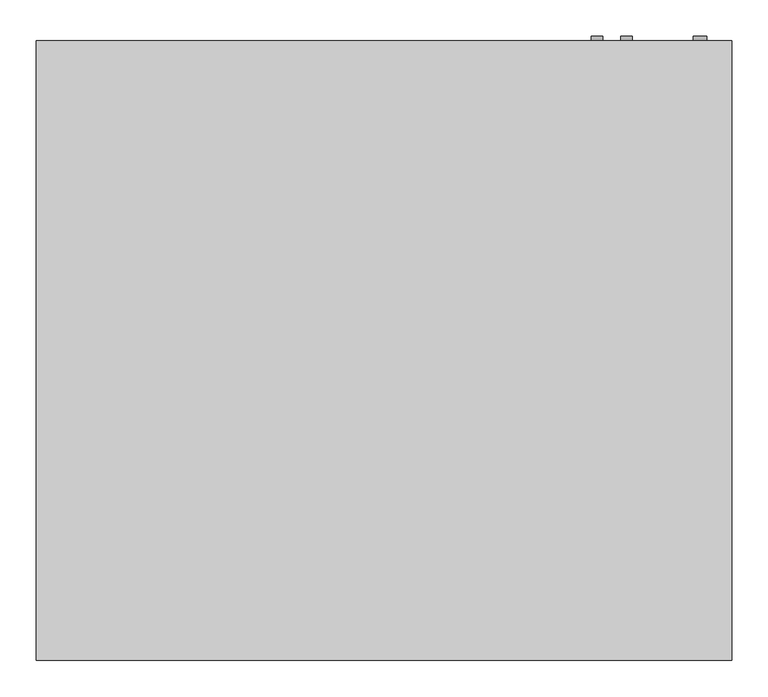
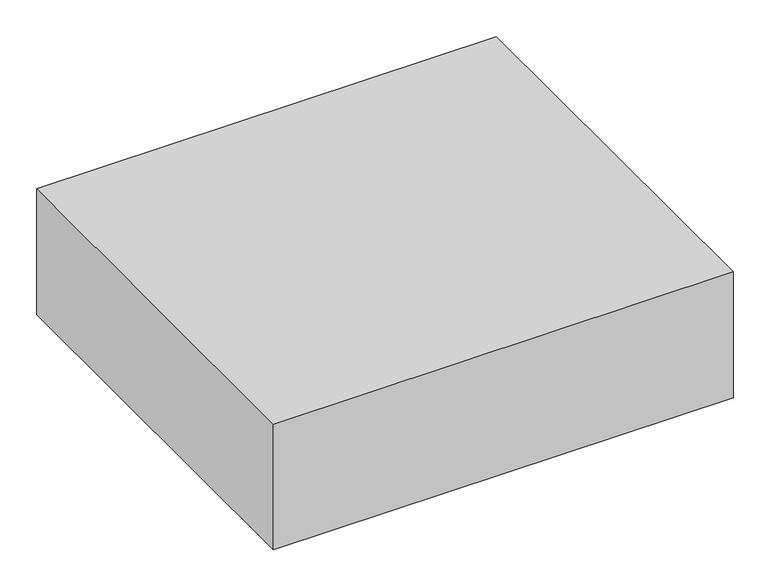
"""IFC4 building model written with IfcOpenShell, lengths in millimetres: proxy geometry, Exposed_Horizontal_Fan_Coil_Unit_-_42CGB_-_CARRIER_-_2-Pipe_Cool-EHeat_BS-BR_RH_2022 : Size 02 - 277v/60Hz/1Ph - 4 Row 2.0kW."""

from ifc_helpers import new_model, si_unit, point, frame, frame_2d, origin, place, context, project, spatial, polyline, circle_curve, trimmed, segment, composite_curve, outline, extrude, source, transform, mapped, element, save


def mechanical_equipment_f0572493(model_context):
    return source(origin(), model_context, "Body", "SweptSolid", [
        extrude(outline(polyline([(369.8875, -439.7375), (369.8875, -585.7875), (-65.0875, -585.7875), (-65.0875, -439.7375), (369.8875, -439.7375)])), frame((0.0, 0.0, -285.75), z_axis=(0.0, 0.0, 1.0), x_axis=(1.0, 0.0, 0.0)), (0.0, 0.0, 1.0), 6.35),
        extrude(outline(composite_curve([segment(trimmed(circle_curve(frame_2d((-60.325, 447.675)), 7.9375), [point((-60.325, 455.6125))], [point((-60.325, 439.7375))], False, "CARTESIAN"), True, "CONTINUOUS"), segment(trimmed(circle_curve(frame_2d((-60.325, 447.675)), 7.9375), [point((-60.325, 439.7375))], [point((-60.325, 455.6125))], False, "CARTESIAN"), True, "CONTINUOUS")], self_intersect=False)), frame((0.0, 192.0875, 0.0), z_axis=(0.0, 1.0, 0.0), x_axis=(0.0, 0.0, 1.0)), (0.0, 0.0, 1.0), 6.35),
        extrude(outline(composite_curve([segment(trimmed(circle_curve(frame_2d((-95.25, 488.95)), 7.9375), [point((-95.25, 496.8875))], [point((-95.25, 481.0125))], False, "CARTESIAN"), True, "CONTINUOUS"), segment(trimmed(circle_curve(frame_2d((-95.25, 488.95)), 7.9375), [point((-95.25, 481.0125))], [point((-95.25, 496.8875))], False, "CARTESIAN"), True, "CONTINUOUS")], self_intersect=False)), frame((0.0, 192.0875, 0.0), z_axis=(0.0, 1.0, 0.0), x_axis=(0.0, 0.0, 1.0)), (0.0, 0.0, 1.0), 6.35),
        extrude(outline(composite_curve([segment(trimmed(circle_curve(frame_2d((-260.35, 590.55)), 9.525), [point((-260.35, 600.075))], [point((-260.35, 581.025))], False, "CARTESIAN"), True, "CONTINUOUS"), segment(trimmed(circle_curve(frame_2d((-260.35, 590.55)), 9.525), [point((-260.35, 581.025))], [point((-260.35, 600.075))], False, "CARTESIAN"), True, "CONTINUOUS")], self_intersect=False)), frame((0.0, 192.0875, 0.0), z_axis=(0.0, 1.0, 0.0), x_axis=(0.0, 0.0, 1.0)), (0.0, 0.0, 1.0), 6.35),
        extrude(outline(polyline([(-330.2, 192.0875), (635.0, 192.0875), (635.0, -668.3375), (-330.2, -668.3375), (-330.2, 192.0875)])), frame((0.0, 0.0, -279.4), z_axis=(0.0, 0.0, 1.0), x_axis=(1.0, 0.0, 0.0)), (0.0, 0.0, 1.0), 279.4),
        extrude(outline(polyline([(450.85, 115.8875), (450.85, -138.1125), (-146.05, -138.1125), (-146.05, 115.8875), (450.85, 115.8875)])), frame((0.0, 0.0, -285.75), z_axis=(0.0, 0.0, 1.0), x_axis=(1.0, 0.0, 0.0)), (0.0, 0.0, 1.0), 6.35),
    ])


if __name__ == "__main__":
    model = new_model("IFC4")
    model_context = context("Model", 3, world=origin())
    ifc_project = project(units=[si_unit("LENGTHUNIT", "METRE", prefix="MILLI")], contexts=[model_context])
    site = spatial("IfcSite", under=ifc_project)
    building = spatial("IfcBuilding", under=site)
    placement = place(None, origin())
    mechanical_equipment_shape = mechanical_equipment_f0572493(model_context)
    element("IfcBuildingElementProxy", 1, Name="Exposed_Horizontal_Fan_Coil_Unit_-_42CGB_-_CARRIER_-_2-Pipe_Cool-EHeat_BS-BR_RH_2022 : Size 02 - 277v/60Hz/1Ph - 4 Row 2.0kW", ObjectType="Exposed_Horizontal_Fan_Coil_Unit_-_42CGB_-_CARRIER_-_2-Pipe_Cool-EHeat_BS-BR_RH_2022 : Size 02 - 277v/60Hz/1Ph - 4 Row 2.0kW", at=placement, inside=building, context=model_context, shape_type="MappedRepresentation", body=[
        mapped(mechanical_equipment_shape, transform((0.0, 0.0, 0.0), x_axis=(1.0, 0.0, 0.0), y_axis=(0.0, 1.0, 0.0), z_axis=(0.0, 0.0, 1.0))),
    ])
    save(model, "model.ifc")
